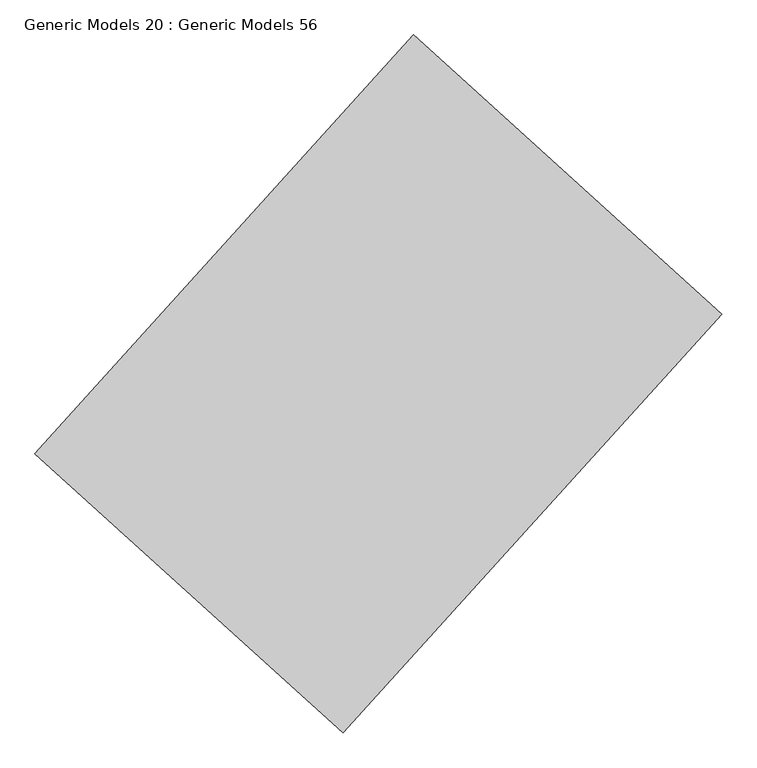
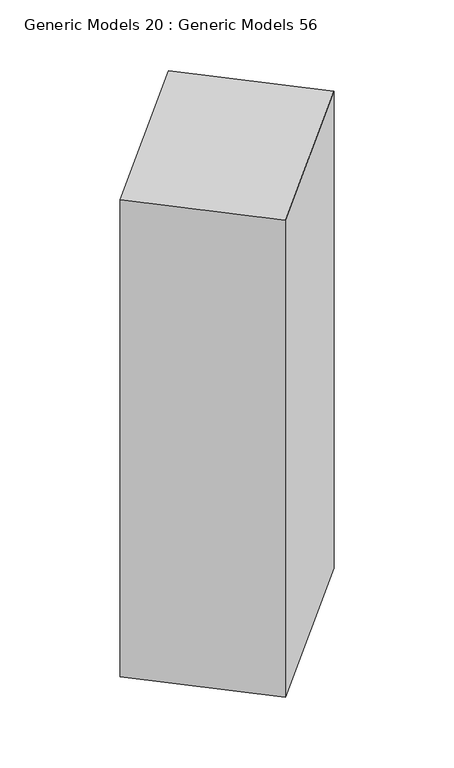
"""IFC4 building model written with IfcOpenShell, lengths in millimetres: proxy geometry, Generic Models 20 : Generic Models 56."""

from ifc_helpers import new_model, si_unit, frame, origin, place, context, project, spatial, polyline, outline, extrude, source, transform, mapped, element, save


def generic_models_20_generic_models_56_103af31e(model_context):
    return source(origin(), model_context, "Body", "SweptSolid", [
        extrude(outline(polyline([(-7588.8789869, -1999.6709775), (-7146.553746, -2400.1846769), (-7690.0525529, -3000.421925), (-8132.3777938, -2599.9082256), (-7588.8789869, -1999.6709775)])), frame((0.0, 0.0, -50.0), z_axis=(0.0, 0.0, 1.0), x_axis=(1.0, 0.0, 0.0)), (0.0, 0.0, 1.0), 2050.0),
    ])


if __name__ == "__main__":
    model = new_model("IFC4")
    model_context = context("Model", 3, world=origin())
    ifc_project = project(units=[si_unit("LENGTHUNIT", "METRE", prefix="MILLI")], contexts=[model_context])
    site = spatial("IfcSite", under=ifc_project)
    building = spatial("IfcBuilding", under=site)
    placement = place(None, origin())
    generic_models_20_generic_models_56_shape = generic_models_20_generic_models_56_103af31e(model_context)
    element("IfcBuildingElementProxy", 1, Name="Generic Models 20 : Generic Models 56", ObjectType="Generic Models 20 : Generic Models 56", at=placement, inside=building, context=model_context, shape_type="MappedRepresentation", body=[
        mapped(generic_models_20_generic_models_56_shape, transform((0.0, 0.0, 0.0), x_axis=(1.0, 0.0, 0.0), y_axis=(0.0, 1.0, 0.0), z_axis=(0.0, 0.0, 1.0))),
    ])
    save(model, "model.ifc")
